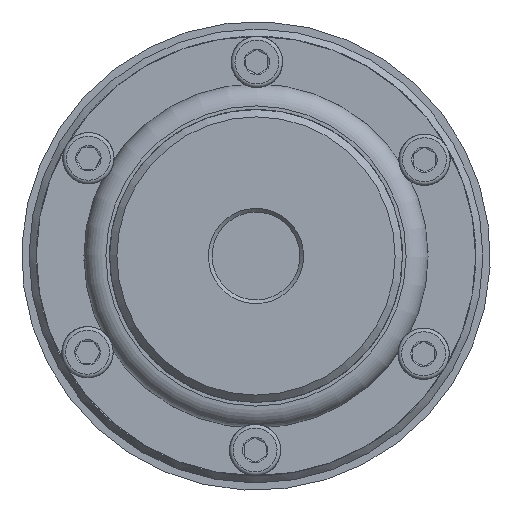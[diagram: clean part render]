
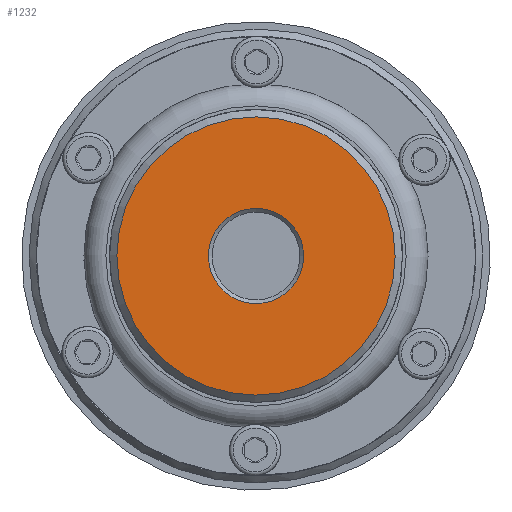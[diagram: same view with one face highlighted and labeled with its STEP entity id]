
A CAD part, left-side view. The second image highlights one B-rep face of the part: STEP entity #1232.
In plain terms, the highlighted planar face has unit normal (-1, 0, 0) as drawn and (0, 0, -1) by its records, which use the part's own axes.
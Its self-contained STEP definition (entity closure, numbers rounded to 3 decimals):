
#1232 = ADVANCED_FACE( '', ( #2471, #2472 ), #2473, .T. );
#2471 = FACE_BOUND( '', #3964, .T. );
#2472 = FACE_OUTER_BOUND( '', #3965, .T. );
#2473 = PLANE( '', #3966 );
#3964 = EDGE_LOOP( '', ( #5693 ) );
#3965 = EDGE_LOOP( '', ( #5694 ) );
#3966 = AXIS2_PLACEMENT_3D( '', #5695, #5696, #5697 );
#5693 = ORIENTED_EDGE( '', *, *, #8062, .T. );
#5694 = ORIENTED_EDGE( '', *, *, #8063, .T. );
#5695 = CARTESIAN_POINT( '', ( 0., 0., 0. ) );
#5696 = DIRECTION( '', ( 0., 0., -1. ) );
#5697 = DIRECTION( '', ( -1., 0., 0. ) );
#8062 = EDGE_CURVE( '', #9359, #9359, #9360, .F. );
#8063 = EDGE_CURVE( '', #9361, #9361, #9362, .T. );
#9359 = VERTEX_POINT( '', #11233 );
#9360 = CIRCLE( '', #11234, 6.5 );
#9361 = VERTEX_POINT( '', #11235 );
#9362 = CIRCLE( '', #11236, 19. );
#11233 = CARTESIAN_POINT( '', ( -6.5, 0., 0. ) );
#11234 = AXIS2_PLACEMENT_3D( '', #13274, #13275, #13276 );
#11235 = CARTESIAN_POINT( '', ( -19., 0., 0. ) );
#11236 = AXIS2_PLACEMENT_3D( '', #13277, #13278, #13279 );
#13274 = CARTESIAN_POINT( '', ( 0., 0., 0. ) );
#13275 = DIRECTION( '', ( 0., 0., -1. ) );
#13276 = DIRECTION( '', ( -1., 0., 0. ) );
#13277 = CARTESIAN_POINT( '', ( 0., 0., 0. ) );
#13278 = DIRECTION( '', ( 0., 0., -1. ) );
#13279 = DIRECTION( '', ( -1., 0., 0. ) );
